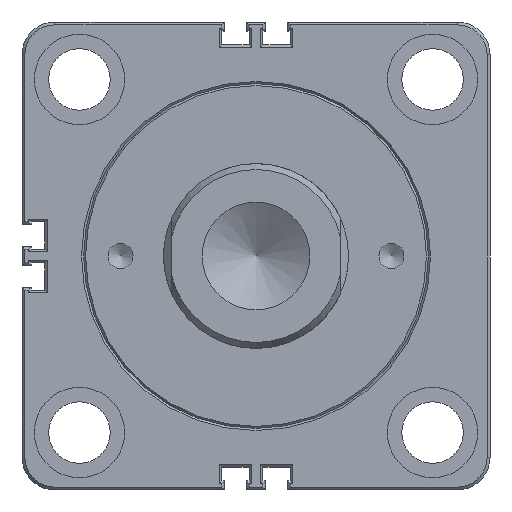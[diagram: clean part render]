
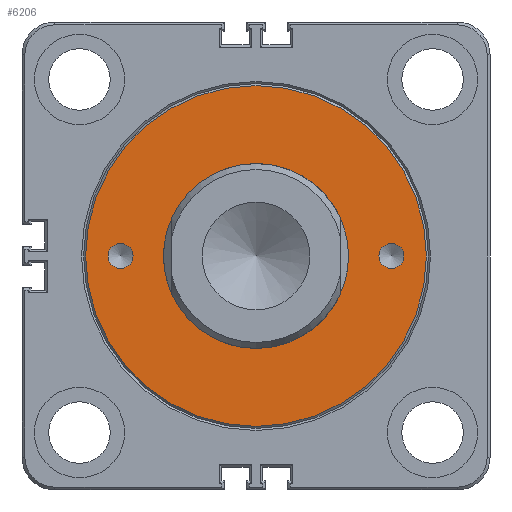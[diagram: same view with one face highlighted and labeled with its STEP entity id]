
A CAD part, front view. The second image highlights one B-rep face of the part: STEP entity #6206.
In plain terms, the highlighted planar face has unit normal (0, -1, 0).
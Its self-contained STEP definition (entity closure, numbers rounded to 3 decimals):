
#1709=ORIENTED_EDGE('',*,*,#2634,.T.);
#1710=ORIENTED_EDGE('',*,*,#2633,.F.);
#1711=ORIENTED_EDGE('',*,*,#2635,.T.);
#1712=ORIENTED_EDGE('',*,*,#2632,.T.);
#2632=EDGE_CURVE('',#3099,#3099,#3203,.T.);
#2633=EDGE_CURVE('',#3100,#3100,#3204,.T.);
#2634=EDGE_CURVE('',#3101,#3101,#3205,.T.);
#2635=EDGE_CURVE('',#3102,#3102,#3206,.T.);
#3099=VERTEX_POINT('',#9399);
#3100=VERTEX_POINT('',#9402);
#3101=VERTEX_POINT('',#9405);
#3102=VERTEX_POINT('',#9407);
#3203=CIRCLE('',#6551,41.5);
#3204=CIRCLE('',#6553,22.5);
#3205=CIRCLE('',#6555,3.05);
#3206=CIRCLE('',#6556,3.05);
#3425=EDGE_LOOP('',(#1709));
#3426=EDGE_LOOP('',(#1710));
#3427=EDGE_LOOP('',(#1711));
#3428=EDGE_LOOP('',(#1712));
#3767=FACE_BOUND('',#3425,.T.);
#3768=FACE_BOUND('',#3426,.T.);
#3769=FACE_BOUND('',#3427,.T.);
#3770=FACE_BOUND('',#3428,.T.);
#3970=PLANE('',#6554);
#6206=ADVANCED_FACE('',(#3767,#3768,#3769,#3770),#3970,.T.);
#6551=AXIS2_PLACEMENT_3D('',#9398,#7412,#7413);
#6553=AXIS2_PLACEMENT_3D('',#9401,#7416,#7417);
#6554=AXIS2_PLACEMENT_3D('',#9403,#7418,#7419);
#6555=AXIS2_PLACEMENT_3D('',#9404,#7420,#7421);
#6556=AXIS2_PLACEMENT_3D('',#9406,#7422,#7423);
#7412=DIRECTION('',(0.,-1.,0.));
#7413=DIRECTION('',(0.,0.,-1.));
#7416=DIRECTION('',(0.,-1.,0.));
#7417=DIRECTION('',(1.,0.,0.));
#7418=DIRECTION('',(0.,-1.,0.));
#7419=DIRECTION('',(1.,0.,0.));
#7420=DIRECTION('',(0.,1.,0.));
#7421=DIRECTION('',(0.,0.,-1.));
#7422=DIRECTION('',(0.,1.,0.));
#7423=DIRECTION('',(0.,0.,-1.));
#9398=CARTESIAN_POINT('',(0.,0.,0.));
#9399=CARTESIAN_POINT('',(0.,0.,-41.5));
#9401=CARTESIAN_POINT('',(0.,0.,0.));
#9402=CARTESIAN_POINT('',(22.5,0.,0.));
#9403=CARTESIAN_POINT('',(-49.,0.,49.));
#9404=CARTESIAN_POINT('',(-33.,0.,0.));
#9405=CARTESIAN_POINT('',(-33.,0.,-3.05));
#9406=CARTESIAN_POINT('',(33.,0.,0.));
#9407=CARTESIAN_POINT('',(33.,0.,-3.05));
